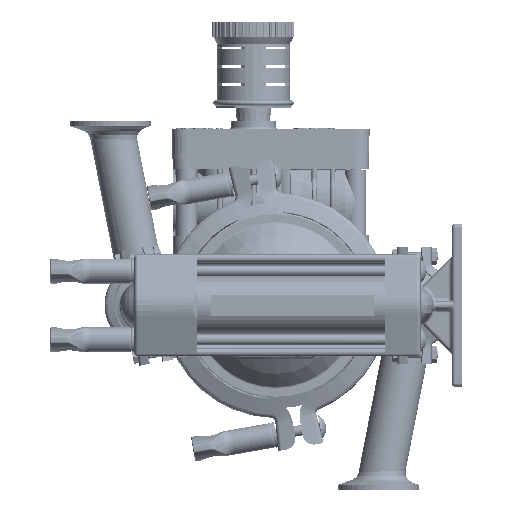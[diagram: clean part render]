
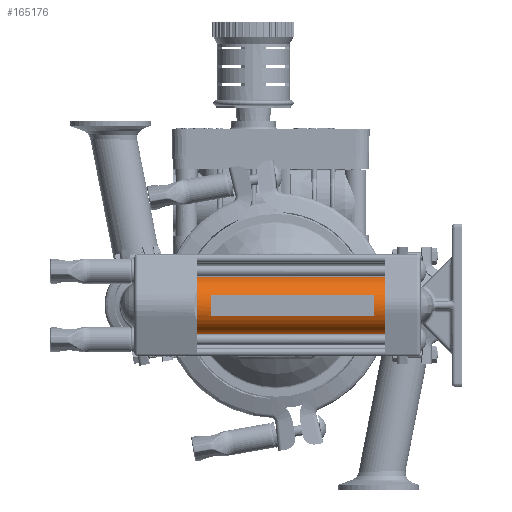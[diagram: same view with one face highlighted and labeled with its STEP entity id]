
A CAD part, left-side view. The second image highlights one B-rep face of the part: STEP entity #165176.
In plain terms, the highlighted cylindrical face has radius 17.907 mm (diameter 35.814 mm), a partial arc.
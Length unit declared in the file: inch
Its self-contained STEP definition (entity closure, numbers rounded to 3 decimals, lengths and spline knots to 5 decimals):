
#156698=CARTESIAN_POINT('',(0.,0.,2.688));
#156699=DIRECTION('',(0.,0.,-1.));
#156700=DIRECTION('',(-1.,0.006,0.));
#156701=AXIS2_PLACEMENT_3D('',#156698,#156699,#156700);
#157845=CARTESIAN_POINT('',(0.,0.,-1.927));
#157846=DIRECTION('',(0.,0.,-1.));
#157847=DIRECTION('',(-1.,0.006,0.));
#157848=AXIS2_PLACEMENT_3D('',#157845,#157846,#157847);
#158022=DIRECTION('',(0.,0.,1.));
#158023=VECTOR('',#158022,4.615);
#158024=CARTESIAN_POINT('',(0.70499,0.00417,-1.927));
#158025=LINE('',#158024,#158023);
#158026=DIRECTION('',(0.,0.,1.));
#158027=VECTOR('',#158026,4.615);
#158028=CARTESIAN_POINT('',(-0.70499,0.00417,-1.927));
#158029=LINE('',#158028,#158027);
#159473=CARTESIAN_POINT('',(0.,0.,-1.599));
#159474=DIRECTION('',(0.,0.,1.));
#159475=DIRECTION('',(0.355,0.935,0.));
#159476=AXIS2_PLACEMENT_3D('',#159473,#159474,#159475);
#159482=DIRECTION('',(0.,0.,1.));
#159483=VECTOR('',#159482,4.);
#159484=CARTESIAN_POINT('',(0.25,0.65919,-1.599));
#159485=LINE('',#159484,#159483);
#159490=CARTESIAN_POINT('',(0.,0.,2.401));
#159491=DIRECTION('',(0.,0.,1.));
#159492=DIRECTION('',(0.355,0.935,0.));
#159493=AXIS2_PLACEMENT_3D('',#159490,#159491,#159492);
#159499=DIRECTION('',(0.,0.,1.));
#159500=VECTOR('',#159499,4.);
#159501=CARTESIAN_POINT('',(-0.25,0.65919,-1.599));
#159502=LINE('',#159501,#159500);
#161892=CARTESIAN_POINT('',(0.70499,0.00417,2.688));
#161893=VERTEX_POINT('',#161892);
#161894=CARTESIAN_POINT('',(-0.70499,0.00417,2.688));
#161895=VERTEX_POINT('',#161894);
#161904=CARTESIAN_POINT('',(0.70499,0.00417,-1.927));
#161905=VERTEX_POINT('',#161904);
#161906=CARTESIAN_POINT('',(-0.70499,0.00417,-1.927));
#161907=VERTEX_POINT('',#161906);
#162937=CARTESIAN_POINT('',(0.25,0.65919,-1.599));
#162938=CARTESIAN_POINT('',(-0.25,0.65919,-1.599));
#162939=VERTEX_POINT('',#162937);
#162940=VERTEX_POINT('',#162938);
#162941=CARTESIAN_POINT('',(-0.25,0.65919,2.401));
#162942=VERTEX_POINT('',#162941);
#162943=CARTESIAN_POINT('',(0.25,0.65919,2.401));
#162944=VERTEX_POINT('',#162943);
#165154=CARTESIAN_POINT('',(0.,0.,2.688));
#165155=DIRECTION('',(0.,0.,1.));
#165156=DIRECTION('',(1.,0.,0.));
#165157=AXIS2_PLACEMENT_3D('',#165154,#165155,#165156);
#165158=CYLINDRICAL_SURFACE('',#165157,0.705);
#165159=ORIENTED_EDGE('',*,*,#163022,.F.);
#165161=ORIENTED_EDGE('',*,*,#165160,.F.);
#165162=ORIENTED_EDGE('',*,*,#164834,.T.);
#165163=ORIENTED_EDGE('',*,*,#165147,.T.);
#165164=EDGE_LOOP('',(#165159,#165161,#165162,#165163));
#165165=FACE_OUTER_BOUND('',#165164,.F.);
#165167=ORIENTED_EDGE('',*,*,#165166,.T.);
#165169=ORIENTED_EDGE('',*,*,#165168,.T.);
#165171=ORIENTED_EDGE('',*,*,#165170,.F.);
#165173=ORIENTED_EDGE('',*,*,#165172,.F.);
#165174=EDGE_LOOP('',(#165167,#165169,#165171,#165173));
#165175=FACE_BOUND('',#165174,.F.);
#165176=ADVANCED_FACE('',(#165165,#165175),#165158,.T.);
#156702=CIRCLE('',#156701,0.705);
#157849=CIRCLE('',#157848,0.705);
#159477=CIRCLE('',#159476,0.705);
#159494=CIRCLE('',#159493,0.705);
#163022=EDGE_CURVE('',#161895,#161893,#156702,.T.);
#164834=EDGE_CURVE('',#161907,#161905,#157849,.T.);
#165147=EDGE_CURVE('',#161905,#161893,#158025,.T.);
#165160=EDGE_CURVE('',#161907,#161895,#158029,.T.);
#165166=EDGE_CURVE('',#162939,#162940,#159477,.T.);
#165168=EDGE_CURVE('',#162940,#162942,#159502,.T.);
#165170=EDGE_CURVE('',#162944,#162942,#159494,.T.);
#165172=EDGE_CURVE('',#162939,#162944,#159485,.T.);
